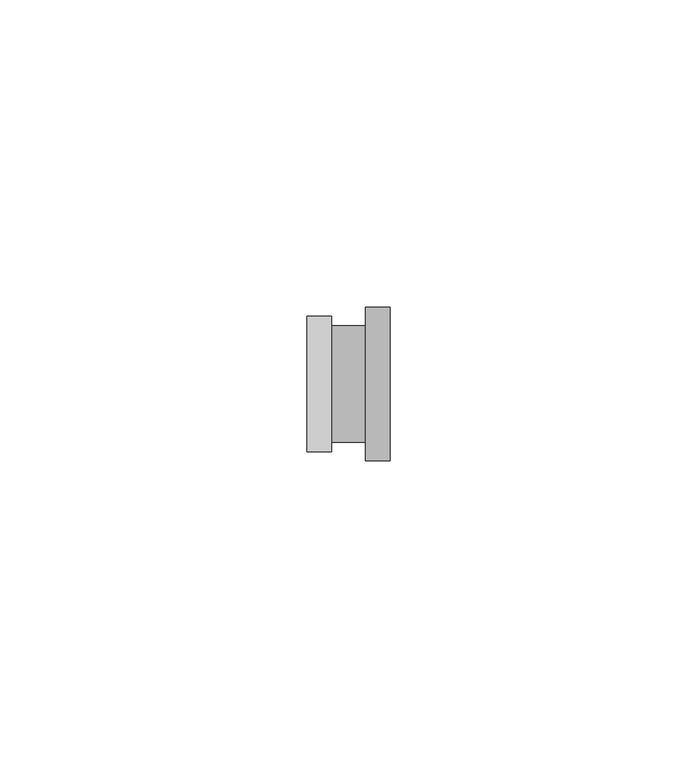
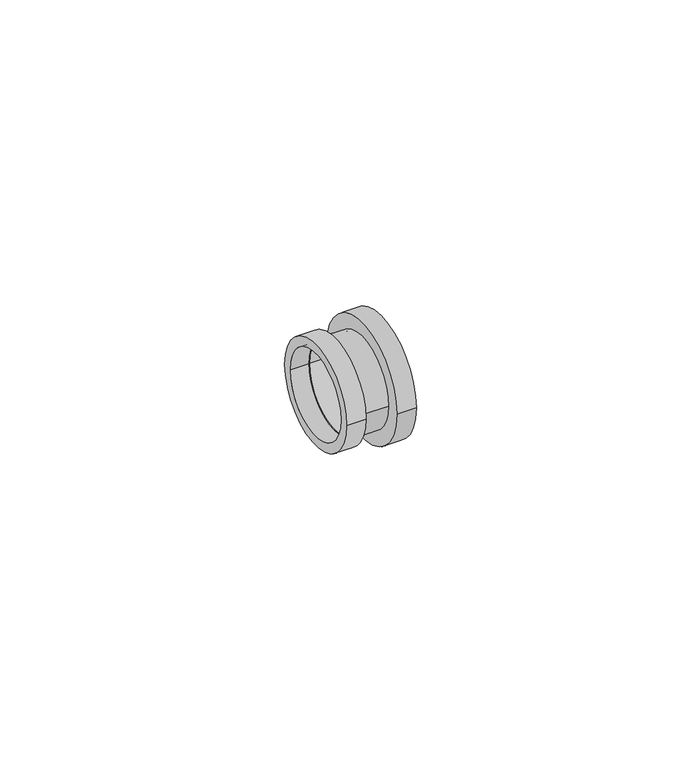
"""IFC4 building model written with IfcOpenShell, lengths in millimetres: pipe fitting geometry, БИР ПЕКС_НПР_Соединитель_Медь : Соединитель медь (пайка) — ПЕКС."""

from ifc_helpers import new_model, si_unit, point, frame, origin, origin_2d, place, context, project, spatial, circle_curve, trimmed, segment, composite_curve, outline, extrude, source, transform, mapped, element, save


def pipe_fitting_ddac6641(model_context):
    return source(origin(), model_context, "Body", "SweptSolid", [
        extrude(outline(composite_curve([segment(trimmed(circle_curve(origin_2d(), 9.5), [point((-9.5, 0.0))], [point((9.5, 0.0))], False, "CARTESIAN"), True, "CONTINUOUS"), segment(trimmed(circle_curve(origin_2d(), 9.5), [point((9.5, 0.0))], [point((-9.5, 0.0))], False, "CARTESIAN"), True, "CONTINUOUS")], self_intersect=False), holes=[composite_curve([segment(trimmed(circle_curve(origin_2d(), 9.0), [point((-9.0, 0.0))], [point((9.0, 0.0))], True, "CARTESIAN"), True, "CONTINUOUS"), segment(trimmed(circle_curve(origin_2d(), 9.0), [point((9.0, 0.0))], [point((-9.0, 0.0))], True, "CARTESIAN"), True, "CONTINUOUS")], self_intersect=False)]), frame((-2.75, 0.0, 0.0), z_axis=(1.0, 0.0, 0.0), x_axis=(0.0, 1.0, 0.0)), (0.0, 0.0, 1.0), 5.5),
        extrude(outline(composite_curve([segment(trimmed(circle_curve(origin_2d(), 12.5), [point((-12.5, 0.0))], [point((12.5, 0.0))], False, "CARTESIAN"), True, "CONTINUOUS"), segment(trimmed(circle_curve(origin_2d(), 12.5), [point((12.5, 0.0))], [point((-12.5, 0.0))], False, "CARTESIAN"), True, "CONTINUOUS")], self_intersect=False), holes=[composite_curve([segment(trimmed(circle_curve(origin_2d(), 9.0), [point((-9.0, 0.0))], [point((9.0, 0.0))], True, "CARTESIAN"), True, "CONTINUOUS"), segment(trimmed(circle_curve(origin_2d(), 9.0), [point((9.0, 0.0))], [point((-9.0, 0.0))], True, "CARTESIAN"), True, "CONTINUOUS")], self_intersect=False)]), frame((2.75, 0.0, 0.0), z_axis=(1.0, 0.0, 0.0), x_axis=(0.0, 1.0, 0.0)), (0.0, 0.0, 1.0), 4.0),
        extrude(outline(composite_curve([segment(trimmed(circle_curve(origin_2d(), 11.0), [point((-11.0, 0.0))], [point((11.0, 0.0))], False, "CARTESIAN"), True, "CONTINUOUS"), segment(trimmed(circle_curve(origin_2d(), 11.0), [point((11.0, 0.0))], [point((-11.0, 0.0))], False, "CARTESIAN"), True, "CONTINUOUS")], self_intersect=False), holes=[composite_curve([segment(trimmed(circle_curve(origin_2d(), 9.0), [point((-9.0, 0.0))], [point((9.0, 0.0))], True, "CARTESIAN"), True, "CONTINUOUS"), segment(trimmed(circle_curve(origin_2d(), 9.0), [point((9.0, 0.0))], [point((-9.0, 0.0))], True, "CARTESIAN"), True, "CONTINUOUS")], self_intersect=False)]), frame((-6.75, 0.0, 0.0), z_axis=(1.0, 0.0, 0.0), x_axis=(0.0, 1.0, 0.0)), (0.0, 0.0, 1.0), 4.0),
    ])


if __name__ == "__main__":
    model = new_model("IFC4")
    model_context = context("Model", 3, world=origin())
    ifc_project = project(units=[si_unit("LENGTHUNIT", "METRE", prefix="MILLI")], contexts=[model_context])
    site = spatial("IfcSite", under=ifc_project)
    building = spatial("IfcBuilding", under=site)
    placement = place(None, origin())
    pipe_fitting_shape = pipe_fitting_ddac6641(model_context)
    element("IfcPipeFitting", 1, ObjectType="БИР ПЕКС_НПР_Соединитель_Медь : Соединитель медь (пайка) — ПЕКС", at=placement, inside=building, context=model_context, shape_type="MappedRepresentation", body=[
        mapped(pipe_fitting_shape, transform((0.0, 0.0, 0.0), x_axis=(1.0, 0.0, 0.0), y_axis=(0.0, 1.0, 0.0), z_axis=(0.0, 0.0, 1.0))),
    ])
    save(model, "model.ifc")
